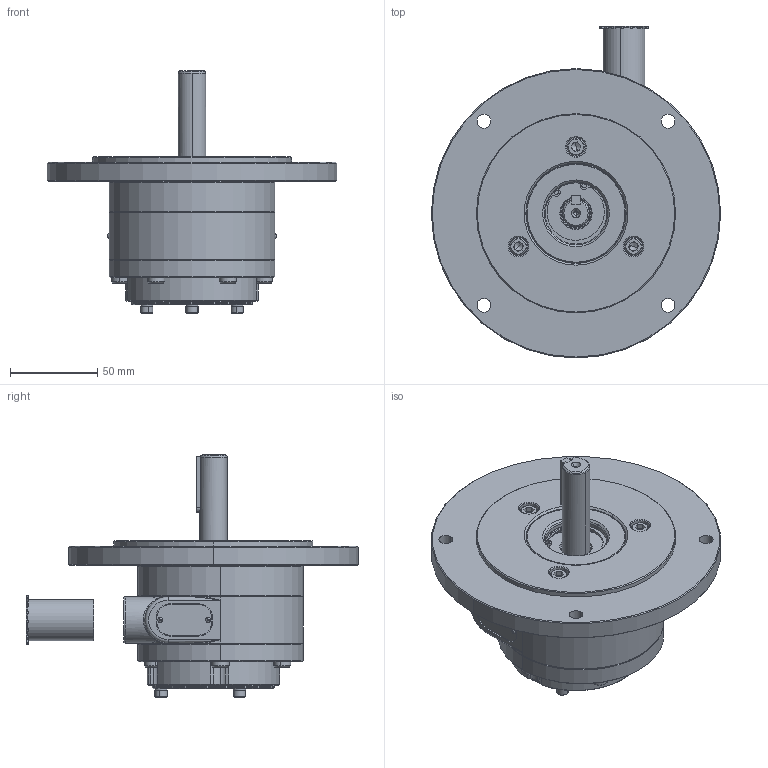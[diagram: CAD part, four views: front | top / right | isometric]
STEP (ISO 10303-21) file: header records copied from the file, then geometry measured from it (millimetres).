
FILE_DESCRIPTION (( 'STEP AP214' ), '1' );
FILE_NAME ('2VMN-Nema (Alu. End Plates)_23-04-26.STEP', '2026-04-23T10:15:51', ( '' ), ( '' ), 'SwSTEP 2.0', 'SolidWorks 2017', '' );
FILE_SCHEMA (( 'AUTOMOTIVE_DESIGN' ));
Length unit declared in the file: millimetre
Products named in the file (2): 2VMN-Nema (Alu. End Plates)_23-04-26
Bounding box: 166 x 190.5 x 139.25 mm (x, y, z)
Volume: 411281.7 mm3; surface area: 147340.1 mm2
Topology: 35 solids, 35 shells, 1034 faces, 2477 edges, 1523 vertices
Faces by surface type: plane 457, cylinder 302, cone 179, torus 72, bspline 24
Entity records: 45304 total; most frequent: CARTESIAN_POINT 7689, DIRECTION 5545, ORIENTED_EDGE 5132, EDGE_CURVE 2566, AXIS2_PLACEMENT_3D 2099, VERTEX_POINT 1605, LINE 1347, VECTOR 1347
